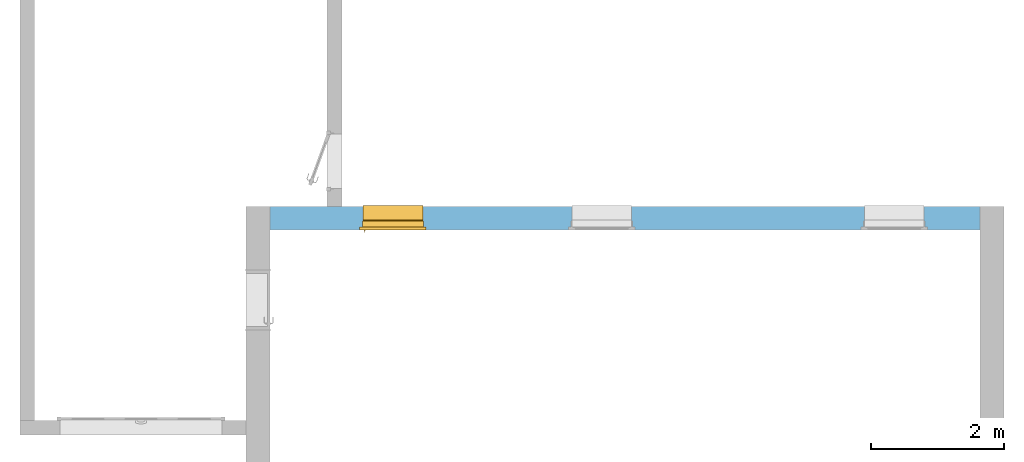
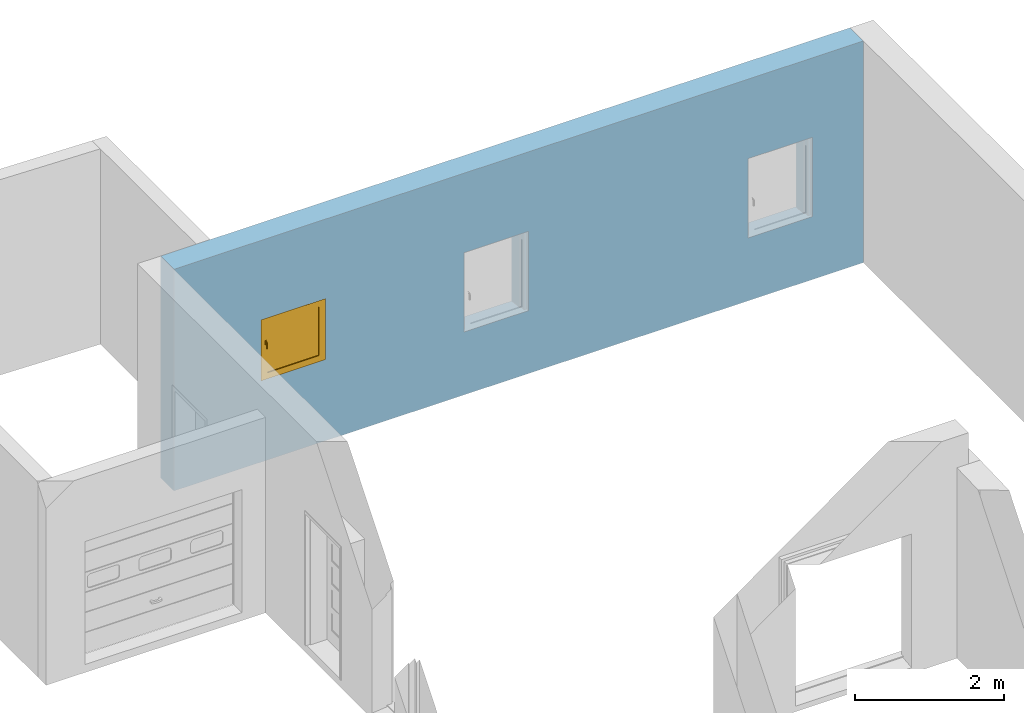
"""IFC2X3 building model written with IfcOpenShell, lengths in centimetres."""

from ifc_helpers import new_model, entity, si_unit, converted_unit, derived_unit, direction, frame, frame_2d, origin, place, context, subcontext, project, spatial, rectangle, extrude, faceted_brep, source, transform, mapped, material, material_list, layer, layer_set, layer_usage, type_object, type_shapes, element, fill, save


model = new_model("IFC2X3")

# Units and contexts
model_context = context("Model", 3, precision=0.001, world=origin(), true_north=direction((6.123031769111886e-17, 1.0)))
body_context = subcontext(model_context, "Body", "Model", "MODEL_VIEW")
ifc_project = project(units=[si_unit("LENGTHUNIT", "METRE", prefix="CENTI"), si_unit("AREAUNIT", "SQUARE_METRE"), si_unit("VOLUMEUNIT", "CUBIC_METRE"), converted_unit("PLANEANGLEUNIT", "DEGREE", entity("IfcRatioMeasure", 0.017453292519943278), si_unit("PLANEANGLEUNIT", "RADIAN"), dimensions=[0, 0, 0, 0, 0, 0, 0]), si_unit("MASSUNIT", "GRAM", prefix="KILO"), derived_unit("MASSDENSITYUNIT", [(si_unit("MASSUNIT", "GRAM", prefix="KILO"), 1), (si_unit("LENGTHUNIT", "METRE"), -3)]), derived_unit("MOMENTOFINERTIAUNIT", [(si_unit("LENGTHUNIT", "METRE"), 4)]), si_unit("TIMEUNIT", "SECOND"), si_unit("FREQUENCYUNIT", "HERTZ"), si_unit("THERMODYNAMICTEMPERATUREUNIT", "DEGREE_CELSIUS"), derived_unit("THERMALTRANSMITTANCEUNIT", [(si_unit("MASSUNIT", "GRAM", prefix="KILO"), 1), (si_unit("THERMODYNAMICTEMPERATUREUNIT", "KELVIN"), -1), (si_unit("TIMEUNIT", "SECOND"), -3)]), derived_unit("THERMALCONDUCTANCEUNIT", [(si_unit("MASSUNIT", "GRAM", prefix="KILO"), 1), (si_unit("LENGTHUNIT", "METRE"), 1), (si_unit("THERMODYNAMICTEMPERATUREUNIT", "KELVIN"), -1), (si_unit("TIMEUNIT", "SECOND"), -3)]), derived_unit("VOLUMETRICFLOWRATEUNIT", [(si_unit("LENGTHUNIT", "METRE"), 3), (si_unit("TIMEUNIT", "SECOND"), -1)]), derived_unit("MASSFLOWRATEUNIT", [(si_unit("MASSUNIT", "GRAM", prefix="KILO"), 1), (si_unit("TIMEUNIT", "SECOND"), -1)]), derived_unit("ROTATIONALFREQUENCYUNIT", [(si_unit("TIMEUNIT", "SECOND"), -1)]), si_unit("ELECTRICCURRENTUNIT", "AMPERE"), si_unit("ELECTRICVOLTAGEUNIT", "VOLT"), si_unit("POWERUNIT", "WATT"), si_unit("FORCEUNIT", "NEWTON", prefix="KILO"), si_unit("ILLUMINANCEUNIT", "LUX"), si_unit("LUMINOUSFLUXUNIT", "LUMEN"), si_unit("LUMINOUSINTENSITYUNIT", "CANDELA"), derived_unit("USERDEFINED", [(si_unit("MASSUNIT", "GRAM", prefix="KILO"), -1), (si_unit("LENGTHUNIT", "METRE"), -2), (si_unit("TIMEUNIT", "SECOND"), 3), (si_unit("LUMINOUSFLUXUNIT", "LUMEN"), 1)]), derived_unit("USERDEFINED", [(si_unit("MASSUNIT", "GRAM", prefix="KILO"), 1), (si_unit("LENGTHUNIT", "METRE"), 3), (si_unit("TIMEUNIT", "SECOND"), -3), (si_unit("ELECTRICCURRENTUNIT", "AMPERE"), -2)]), derived_unit("USERDEFINED", [(si_unit("LENGTHUNIT", "METRE"), 2), (si_unit("TIMEUNIT", "SECOND"), -2)]), derived_unit("SOUNDPOWERUNIT", [(si_unit("MASSUNIT", "GRAM", prefix="KILO"), 1), (si_unit("LENGTHUNIT", "METRE"), 2), (si_unit("TIMEUNIT", "SECOND"), -3)]), derived_unit("SOUNDPRESSUREUNIT", [(si_unit("MASSUNIT", "GRAM", prefix="KILO"), 1), (si_unit("LENGTHUNIT", "METRE"), -1), (si_unit("TIMEUNIT", "SECOND"), -2)]), derived_unit("LINEARVELOCITYUNIT", [(si_unit("LENGTHUNIT", "METRE"), 1), (si_unit("TIMEUNIT", "SECOND"), -1)]), si_unit("PRESSUREUNIT", "PASCAL"), derived_unit("USERDEFINED", [(si_unit("LENGTHUNIT", "METRE"), -2), (si_unit("MASSUNIT", "GRAM", prefix="KILO"), 1), (si_unit("TIMEUNIT", "SECOND"), -2)]), derived_unit("LINEARFORCEUNIT", [(si_unit("MASSUNIT", "GRAM", prefix="KILO"), 1), (si_unit("LENGTHUNIT", "METRE"), 1), (si_unit("TIMEUNIT", "SECOND"), -2), (si_unit("LENGTHUNIT", "METRE"), -1)]), derived_unit("PLANARFORCEUNIT", [(si_unit("MASSUNIT", "GRAM", prefix="KILO"), 1), (si_unit("LENGTHUNIT", "METRE"), 1), (si_unit("TIMEUNIT", "SECOND"), -2), (si_unit("LENGTHUNIT", "METRE"), -2)]), derived_unit("SPECIFICHEATCAPACITYUNIT", [(si_unit("LENGTHUNIT", "METRE"), 2), (si_unit("TIMEUNIT", "SECOND"), -2), (si_unit("THERMODYNAMICTEMPERATUREUNIT", "KELVIN"), -1)]), derived_unit("VAPORPERMEABILITYUNIT", [(si_unit("TIMEUNIT", "SECOND"), 1), (si_unit("LENGTHUNIT", "METRE"), -1)]), derived_unit("DYNAMICVISCOSITYUNIT", [(si_unit("MASSUNIT", "GRAM", prefix="KILO"), 1), (si_unit("LENGTHUNIT", "METRE"), -1), (si_unit("TIMEUNIT", "SECOND"), -1)]), derived_unit("THERMALEXPANSIONCOEFFICIENTUNIT", [(si_unit("THERMODYNAMICTEMPERATUREUNIT", "KELVIN"), -1)])], contexts=[model_context])

# Site, building, storey
site_placement = place(None, origin())
site = spatial("IfcSite", under=ifc_project, at=site_placement, Name="Default", CompositionType="ELEMENT")
building_placement = place(site_placement, origin())
building = spatial("IfcBuilding", under=site, at=building_placement, CompositionType="ELEMENT")
storey_1_placement = place(building_placement, frame((0.0, 0.0, -13.0)))
storey_1 = spatial("IfcBuildingStorey", under=building, at=storey_1_placement, Name="0_-0.13", CompositionType="ELEMENT", Elevation=-13.000000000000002)

# Wall, openings
ifc_material_1 = material(Name="Maçonnerie - Enduit")
ifc_layer_1 = layer(ifc_material_1, 2.0)
ifc_material_2 = material(Name="Maçonnerie - Béton")
ifc_layer_2 = layer(ifc_material_2, 20.0)
ifc_material_3 = material(Name="Mur par défaut")
ifc_layer_3 = layer(ifc_material_3, 14.0)
ifc_layer_set = layer_set([ifc_layer_1, ifc_layer_2, ifc_layer_3], Name="Mur de base:Mur extérieur 36cm")
ifc_layer_usage = layer_usage(ifc_layer_set, "AXIS2", "POSITIVE", -18.0)
wall_type = type_object("IfcWallType", Name="Mur de base:Mur extérieur 36cm", PredefinedType="STANDARD", material=ifc_layer_set)
wall_placement = place(storey_1_placement, frame((381.93155623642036, 360.64664587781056, 0.0), z_axis=(0.0, 0.0, 1.0), x_axis=(-1.0, 0.0, 0.0)))
wall = element("IfcWallStandardCase", 1, at=wall_placement, inside=storey_1, type_object=wall_type, material=ifc_layer_usage, Name="Mur de base:Mur extérieur 36cm", ObjectType="Mur de base:Mur extérieur 36cm", context=body_context, shape_type="SweptSolid", body=[
    extrude(rectangle(XDim=1068.0000000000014, YDim=36.00000000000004, at=frame_2d((534.0000000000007, 5.329070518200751e-15), x_axis=(-1.0, 0.0))), origin(), (0.0, 0.0, 1.0), 363.0000000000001),
])
opening_1_placement = place(wall_placement, origin())
element("IfcOpeningElement", 2, at=opening_1_placement, cuts=wall, Name="Mur de base:Mur extérieur 36cm", ObjectType="Opening", context=body_context, shape_type="SweptSolid", body=[
    extrude(rectangle(XDim=249.9999999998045, YDim=6.999999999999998, at=frame_2d((-3.3306690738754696e-15, 0.0), x_axis=(0.0, 1.0))), frame((331.50000000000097, 18.0, 138.0), z_axis=(0.0, 1.0, 0.0), x_axis=(-1.0, 0.0, 0.0)), (0.0, 0.0, 1.0), 146.0),
])
opening_2_placement = place(wall_placement, frame((179.0, 50.0, 95.61416282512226), z_axis=(0.0, 0.0, 1.0), x_axis=(-1.0, 0.0, 0.0)))
element("IfcOpeningElement", 3, at=opening_2_placement, cuts=wall, Name="Mur de base:Mur extérieur 36cm", ObjectType="Opening", context=body_context, shape_type="Brep", body=[
    faceted_brep([(5.0, 44.0, 7.385837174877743), (5.0, 46.0, 7.385837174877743), (5.0, 46.0, 132.38583717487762), (5.0, 100.0, 132.38583717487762), (5.0, 100.0, 0.0), (5.0, 44.0, 5.885837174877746), (95.0, 0.0, 7.385837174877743), (95.0, 32.0, 7.385837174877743), (95.0, 32.0, 132.38583717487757), (95.0, 0.0, 132.38583717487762), (5.0, 0.0, 7.385837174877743), (5.0, 32.0, 7.385837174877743), (0.0, 32.0, 7.385837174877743), (0.0, 37.0, 7.385837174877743), (4.0, 37.0, 7.385837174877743), (4.0, 46.0, 7.385837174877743), (95.0, 44.0, 7.385837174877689), (95.0, 46.0, 7.385837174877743), (96.0, 46.0, 7.385837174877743), (96.0, 37.0, 7.385837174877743), (100.0, 37.0, 7.385837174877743), (100.0, 32.0, 7.385837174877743), (5.0, 0.0, 132.38583717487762), (95.0, 46.0, 132.38583717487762), (95.0, 100.0, 132.38583717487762), (95.0, 100.0, 0.0), (95.0, 44.0, 5.885837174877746), (0.0, 32.0, 137.3858371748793), (0.0, 37.0, 137.3858371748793), (100.0, 37.0, 137.3858371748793), (96.0, 37.0, 133.38583717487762), (4.0, 37.0, 133.38583717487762), (4.0, 46.0, 133.38583717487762), (96.0, 46.0, 133.38583717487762), (5.0, 32.0, 132.38583717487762), (100.0, 32.0, 137.3858371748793)], [[[0, 1, 2, 3, 4, 5]], [[6, 7, 8, 9]], [[10, 11, 12, 13, 14, 15, 1, 0, 16, 17, 18, 19, 20, 21, 7, 6]], [[10, 6, 9, 22]], [[3, 2, 23, 24]], [[3, 24, 25, 4]], [[4, 25, 26, 5]], [[5, 26, 16, 0]], [[12, 27, 28, 13]], [[13, 28, 29, 20, 19, 30, 31, 14]], [[14, 31, 32, 15]], [[15, 32, 33, 18, 17, 23, 2, 1]], [[11, 34, 8, 7, 21, 35, 27, 12]], [[27, 35, 29, 28]], [[30, 33, 32, 31]], [[29, 35, 21, 20]], [[19, 18, 33, 30]], [[9, 8, 34, 22]], [[24, 23, 17, 16, 26, 25]], [[22, 34, 11, 10]]]),
])
opening_3_placement = place(wall_placement, frame((619.0, 50.0, 95.61416282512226), z_axis=(0.0, 0.0, 1.0), x_axis=(-1.0, 0.0, 0.0)))
element("IfcOpeningElement", 4, at=opening_3_placement, cuts=wall, Name="Mur de base:Mur extérieur 36cm", ObjectType="Opening", context=body_context, shape_type="Brep", body=[
    faceted_brep([(5.0, 44.0, 7.385837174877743), (5.0, 46.0, 7.385837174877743), (5.0, 46.0, 132.38583717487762), (5.0, 100.0, 132.38583717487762), (5.0, 100.0, 0.0), (5.0, 44.0, 5.885837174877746), (95.0, 0.0, 7.385837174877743), (95.0, 32.0, 7.385837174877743), (95.0, 32.0, 132.38583717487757), (95.0, 0.0, 132.38583717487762), (5.0, 0.0, 7.385837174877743), (5.0, 32.0, 7.385837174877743), (0.0, 32.0, 7.385837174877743), (0.0, 37.0, 7.385837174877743), (4.0, 37.0, 7.385837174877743), (4.0, 46.0, 7.385837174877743), (95.0, 44.0, 7.385837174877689), (95.0, 46.0, 7.385837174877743), (96.0, 46.0, 7.385837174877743), (96.0, 37.0, 7.385837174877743), (100.0, 37.0, 7.385837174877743), (100.0, 32.0, 7.385837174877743), (5.0, 0.0, 132.38583717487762), (95.0, 46.0, 132.38583717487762), (95.0, 100.0, 132.38583717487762), (95.0, 100.0, 0.0), (95.0, 44.0, 5.885837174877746), (0.0, 32.0, 137.3858371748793), (0.0, 37.0, 137.3858371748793), (100.0, 37.0, 137.3858371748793), (96.0, 37.0, 133.38583717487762), (4.0, 37.0, 133.38583717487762), (4.0, 46.0, 133.38583717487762), (96.0, 46.0, 133.38583717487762), (5.0, 32.0, 132.38583717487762), (100.0, 32.0, 137.3858371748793)], [[[0, 1, 2, 3, 4, 5]], [[6, 7, 8, 9]], [[10, 11, 12, 13, 14, 15, 1, 0, 16, 17, 18, 19, 20, 21, 7, 6]], [[10, 6, 9, 22]], [[3, 2, 23, 24]], [[3, 24, 25, 4]], [[4, 25, 26, 5]], [[5, 26, 16, 0]], [[12, 27, 28, 13]], [[13, 28, 29, 20, 19, 30, 31, 14]], [[14, 31, 32, 15]], [[15, 32, 33, 18, 17, 23, 2, 1]], [[11, 34, 8, 7, 21, 35, 27, 12]], [[27, 35, 29, 28]], [[30, 33, 32, 31]], [[29, 35, 21, 20]], [[19, 18, 33, 30]], [[9, 8, 34, 22]], [[24, 23, 17, 16, 26, 25]], [[22, 34, 11, 10]]]),
])
opening_4_placement = place(wall_placement, frame((933.0, 50.0, 125.61416282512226), z_axis=(0.0, 0.0, 1.0), x_axis=(-1.0, 0.0, 0.0)))
opening_4 = element("IfcOpeningElement", 5, at=opening_4_placement, cuts=wall, Name="Mur de base:Mur extérieur 36cm", ObjectType="Opening", context=body_context, shape_type="Brep", body=[
    faceted_brep([(5.0, 44.0, 7.385837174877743), (5.0, 46.0, 7.385837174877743), (5.0, 46.0, 102.38583717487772), (5.0, 100.0, 102.38583717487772), (5.0, 100.0, 0.0), (5.0, 44.0, 5.885837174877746), (95.0, 0.0, 7.385837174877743), (95.0, 32.0, 7.385837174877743), (95.0, 32.0, 102.38583717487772), (95.0, 0.0, 102.38583717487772), (5.0, 0.0, 7.385837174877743), (5.0, 32.0, 7.385837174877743), (0.0, 32.0, 7.385837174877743), (0.0, 37.0, 7.385837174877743), (4.0, 37.0, 7.385837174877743), (4.0, 46.0, 7.385837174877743), (95.0, 44.0, 7.385837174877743), (95.0, 46.0, 7.385837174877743), (96.0, 46.0, 7.385837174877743), (96.0, 37.0, 7.385837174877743), (100.0, 37.0, 7.385837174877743), (100.0, 32.0, 7.385837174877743), (5.0, 0.0, 102.38583717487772), (95.0, 46.0, 102.38583717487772), (95.0, 100.0, 102.38583717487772), (95.0, 100.0, 0.0), (95.0, 44.0, 5.885837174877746), (0.0, 32.0, 107.3858371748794), (0.0, 37.0, 107.3858371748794), (100.0, 37.0, 107.3858371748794), (96.0, 37.0, 103.38583717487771), (4.0, 37.0, 103.38583717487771), (4.0, 46.0, 103.38583717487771), (96.0, 46.0, 103.38583717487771), (5.0, 32.0, 102.38583717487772), (100.0, 32.0, 107.3858371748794)], [[[0, 1, 2, 3, 4, 5]], [[6, 7, 8, 9]], [[10, 11, 12, 13, 14, 15, 1, 0, 16, 17, 18, 19, 20, 21, 7, 6]], [[10, 6, 9, 22]], [[3, 2, 23, 24]], [[3, 24, 25, 4]], [[4, 25, 26, 5]], [[5, 26, 16, 0]], [[12, 27, 28, 13]], [[13, 28, 29, 20, 19, 30, 31, 14]], [[14, 31, 32, 15]], [[15, 32, 33, 18, 17, 23, 2, 1]], [[11, 34, 8, 7, 21, 35, 27, 12]], [[27, 35, 29, 28]], [[30, 33, 32, 31]], [[29, 35, 21, 20]], [[19, 18, 33, 30]], [[9, 8, 34, 22]], [[24, 23, 17, 16, 26, 25]], [[22, 34, 11, 10]]]),
])

# Storey
storey_2_placement = place(building_placement, origin())
storey_2 = spatial("IfcBuildingStorey", under=building, at=storey_2_placement, Name="1_Rez-de-chaussée", CompositionType="ELEMENT", Elevation=0.0)

# Window
ifc_material_4 = material(Name="Fenêtre - Poignée")
ifc_material_5 = material(Name="Fenêtre - Appui")
ifc_material_6 = material(Name="Fenêtre - Vitrage")
ifc_material_7 = material(Name="Fenêtre - Cadre")
ifc_material_list = material_list([ifc_material_4, ifc_material_5, ifc_material_6, ifc_material_7])
window_style = type_object("IfcWindowStyle", Name="1 Vantail - Droit:0.90 m x 0.95 m", ConstructionType="NOTDEFINED", OperationType="NOTDEFINED", ParameterTakesPrecedence=False, Sizeable=False, material=ifc_material_list)
shared_shape = source(origin(), body_context, "Body", "Brep", [
    faceted_brep([(8.064600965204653, 31.39999999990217, 69.58923009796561), (8.203392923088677, 31.39999999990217, 69.45043814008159), (8.203392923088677, 31.39999999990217, 68.31906729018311), (8.066769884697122, 31.39999999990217, 68.18244425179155), (6.933230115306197, 31.39999999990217, 68.18244425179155), (6.796607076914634, 31.39999999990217, 68.31906729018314), (6.796607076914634, 31.39999999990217, 69.45043814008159), (6.935399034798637, 31.39999999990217, 69.58923009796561), (8.064600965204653, 30.10864511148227, 69.58923009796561), (8.203392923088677, 30.16613462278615, 69.45043814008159), (8.203392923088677, 28.83539903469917, 68.11970255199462), (8.203392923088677, 28.835399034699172, 59.3858371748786), (8.203392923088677, 29.966769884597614, 59.3858371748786), (8.203392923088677, 29.966769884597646, 67.65107340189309), (8.203392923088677, 30.634763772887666, 68.31906729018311), (8.066769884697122, 30.69135488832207, 68.18244425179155), (6.933230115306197, 30.69135488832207, 68.18244425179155), (6.796607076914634, 30.634763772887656, 68.31906729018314), (6.796607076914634, 29.9667698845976, 67.6510734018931), (6.796607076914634, 29.9667698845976, 59.3858371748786), (6.796607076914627, 28.835399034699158, 59.3858371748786), (6.796607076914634, 28.835399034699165, 68.11970255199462), (6.796607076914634, 30.16613462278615, 69.45043814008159), (6.935399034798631, 30.10864511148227, 69.58923009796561), (8.064600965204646, 28.696607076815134, 68.17719206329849), (8.066769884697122, 30.103392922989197, 67.59448228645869), (6.933230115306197, 30.103392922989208, 67.59448228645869), (6.935399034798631, 28.696607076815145, 68.17719206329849), (8.064600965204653, 28.696607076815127, 59.3858371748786), (6.935399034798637, 28.696607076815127, 59.3858371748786), (6.933230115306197, 30.103392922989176, 59.3858371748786), (8.066769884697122, 30.103392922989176, 59.3858371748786)], [[[0, 1, 2, 3, 4, 5, 6, 7]], [[1, 0, 8, 9]], [[2, 1, 9, 10, 11, 12, 13, 14]], [[3, 2, 14, 15]], [[4, 3, 15, 16]], [[5, 4, 16, 17]], [[6, 5, 17, 18, 19, 20, 21, 22]], [[7, 6, 22, 23]], [[0, 7, 23, 8]], [[9, 8, 24, 10]], [[15, 14, 13, 25]], [[16, 15, 25, 26]], [[17, 16, 26, 18]], [[23, 22, 21, 27]], [[8, 23, 27, 24]], [[28, 29, 20, 19, 30, 31, 12, 11]], [[10, 24, 28, 11]], [[25, 13, 12, 31]], [[26, 25, 31, 30]], [[18, 26, 30, 19]], [[27, 21, 20, 29]], [[24, 27, 29, 28]]]),
    faceted_brep([(8.200000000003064, 31.400000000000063, 71.38583717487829), (6.80000000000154, 31.400000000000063, 71.38583717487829), (6.300000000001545, 31.400000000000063, 70.8858371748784), (6.300000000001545, 31.400000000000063, 63.88583717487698), (6.8000000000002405, 31.400000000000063, 63.38583717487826), (8.200000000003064, 31.400000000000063, 63.38583717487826), (8.70000000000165, 31.400000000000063, 63.885837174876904), (8.70000000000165, 31.400000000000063, 70.8858371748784), (8.200000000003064, 32.0, 71.38583717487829), (8.70000000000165, 32.0, 70.8858371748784), (8.70000000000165, 32.0, 63.885837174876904), (8.200000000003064, 32.0, 63.38583717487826), (6.8000000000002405, 32.0, 63.38583717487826), (6.300000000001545, 32.0, 63.88583717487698), (6.300000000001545, 32.0, 70.8858371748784), (6.80000000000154, 32.0, 71.38583717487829)], [[[0, 1, 2, 3, 4, 5, 6, 7]], [[8, 9, 10, 11, 12, 13, 14, 15]], [[1, 0, 8, 15]], [[2, 1, 15, 14]], [[3, 2, 14, 13]], [[4, 3, 13, 12]], [[5, 4, 12, 11]], [[6, 5, 11, 10]], [[7, 6, 10, 9]], [[0, 7, 9, 8]]]),
    faceted_brep([(95.0, 69.50000000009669, 3.731200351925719), (95.0, 44.5000000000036, 6.3588062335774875), (95.0, 44.5000000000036, 7.38583717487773), (95.0, 44.0, 7.38583717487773), (95.0, 44.0, 5.885837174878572), (95.0, 69.0, 3.2582312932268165), (95.0, 69.0, 2.2281808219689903), (95.0, 69.5000000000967, 2.1756287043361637), (5.0, 69.5000000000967, 3.731200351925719), (5.0, 69.5000000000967, 2.1756287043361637), (5.0, 69.0, 2.2281808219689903), (5.0, 69.0, 3.2582312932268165), (5.0, 44.0, 5.885837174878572), (5.0, 44.0, 7.38583717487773), (5.0, 44.50000000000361, 7.38583717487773), (5.0, 44.50000000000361, 6.3588062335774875)], [[[0, 1, 2, 3, 4, 5, 6, 7]], [[8, 9, 10, 11, 12, 13, 14, 15]], [[1, 0, 8, 15]], [[2, 1, 15, 14]], [[3, 2, 14, 13]], [[4, 3, 13, 12]], [[5, 4, 12, 11]], [[6, 5, 11, 10]], [[7, 6, 10, 9]], [[0, 7, 9, 8]]]),
    faceted_brep([(5.0, 69.50000000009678, 3.8737928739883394), (5.0, 69.50000000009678, 3.731200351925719), (5.0, 44.50000000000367, 6.3588062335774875), (5.0, 44.50000000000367, 6.861560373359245), (5.0, 69.14181138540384, 4.271601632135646), (5.0, 69.39725793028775, 4.14144511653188), (5.500000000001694, 44.50000000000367, 6.861560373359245), (5.500000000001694, 44.50000000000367, 6.3588062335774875), (5.500000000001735, 69.50000000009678, 3.731200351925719), (5.500000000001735, 69.50000000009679, 3.8737928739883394), (5.500000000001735, 69.39725793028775, 4.14144511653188), (5.500000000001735, 69.14181138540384, 4.271601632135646)], [[[0, 1, 2, 3, 4, 5]], [[6, 7, 8, 9, 10, 11]], [[2, 1, 8, 7]], [[3, 2, 7, 6]], [[4, 3, 6, 11]], [[4, 11, 10, 5]], [[10, 9, 0, 5]], [[1, 0, 9, 8]]]),
    faceted_brep([(94.50000000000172, 69.50000000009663, 3.8737928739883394), (94.50000000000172, 69.50000000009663, 3.731200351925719), (94.50000000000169, 44.50000000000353, 6.3588062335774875), (94.50000000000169, 44.50000000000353, 6.861560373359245), (94.50000000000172, 69.14181138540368, 4.271601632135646), (94.50000000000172, 69.39725793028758, 4.14144511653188), (95.0, 44.50000000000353, 6.861560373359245), (95.0, 44.50000000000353, 6.3588062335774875), (95.0, 69.50000000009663, 3.731200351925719), (95.0, 69.50000000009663, 3.8737928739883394), (95.0, 69.39725793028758, 4.14144511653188), (95.0, 69.14181138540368, 4.271601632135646)], [[[0, 1, 2, 3, 4, 5]], [[6, 7, 8, 9, 10, 11]], [[2, 1, 8, 7]], [[3, 2, 7, 6]], [[4, 3, 6, 11]], [[4, 11, 10, 5]], [[10, 9, 0, 5]], [[1, 0, 9, 8]]]),
    faceted_brep([(10.0, 34.59999999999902, 17.385837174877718), (10.0, 34.59999999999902, 97.38583717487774), (90.0, 34.599999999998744, 97.38583717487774), (90.0, 34.599999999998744, 17.385837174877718), (10.0, 33.39999999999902, 17.385837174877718), (10.0, 33.39999999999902, 97.38583717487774), (90.0, 33.39999999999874, 97.38583717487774), (90.0, 33.39999999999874, 17.385837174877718)], [[[0, 1, 2, 3]], [[1, 0, 4, 5]], [[3, 2, 6, 7]], [[0, 3, 7, 4]], [[4, 7, 6, 5]], [[2, 1, 5, 6]]]),
    faceted_brep([(10.0, 36.0, 97.38583717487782), (10.0, 32.0, 97.38583717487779), (10.0, 32.0, 17.385837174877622), (10.0, 36.0, 17.385837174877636), (90.0, 32.0, 17.385837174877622), (90.0, 36.0, 17.385837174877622), (90.0, 32.0, 97.38583717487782), (95.0, 32.0, 12.385837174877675), (95.0, 32.0, 102.38583717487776), (5.0, 32.0, 102.38583717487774), (5.0, 32.0, 12.385837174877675), (90.0, 36.0, 97.38583717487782), (5.0, 36.0, 12.38583717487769), (5.0, 36.0, 102.38583717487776), (95.0, 36.0, 102.38583717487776), (95.0, 36.0, 12.385837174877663)], [[[0, 1, 2, 3]], [[3, 2, 4, 5]], [[2, 1, 6, 4], [7, 8, 9, 10]], [[5, 4, 6, 11]], [[5, 11, 0, 3], [12, 13, 14, 15]], [[9, 13, 12, 10]], [[10, 12, 15, 7]], [[7, 15, 14, 8]], [[11, 6, 1, 0]], [[8, 14, 13, 9]]], outer=[[True], [True], [False, True], [True], [False, True], [True], [True], [True], [True], [True]]),
    faceted_brep([(0.0, 32.0, 7.38583717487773), (0.0, 37.0, 7.38583717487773), (5.0, 37.0, 7.38583717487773), (5.0, 46.0, 7.38583717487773), (95.0, 46.0, 7.385837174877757), (95.0, 37.0, 7.38583717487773), (100.0, 37.0, 7.38583717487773), (100.0, 32.0, 7.38583717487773), (0.0, 32.0, 107.38583717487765), (0.0, 37.0, 107.38583717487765), (100.0, 37.0, 107.38583717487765), (95.0, 37.0, 11.323451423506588), (5.0, 37.0, 11.323451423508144), (6.500000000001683, 37.0, 100.8858371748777), (6.500000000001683, 37.0, 13.885837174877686), (93.50000000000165, 37.0, 13.885837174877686), (93.50000000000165, 37.0, 100.8858371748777), (5.0, 47.0, 8.643959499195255), (5.0, 47.0, 6.885837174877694), (5.0, 46.0, 6.885837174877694), (95.0, 46.0, 6.885837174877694), (95.0, 47.0, 6.885837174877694), (95.0, 47.0, 8.643959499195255), (100.0, 32.0, 107.38583717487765), (95.0, 32.0, 102.38583717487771), (95.0, 32.0, 12.38583717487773), (5.0, 32.0, 12.38583717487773), (5.0, 32.0, 102.38583717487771), (6.500000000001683, 36.0, 100.8858371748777), (6.500000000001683, 36.0, 13.885837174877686), (93.50000000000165, 36.0, 13.885837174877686), (93.50000000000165, 36.0, 100.8858371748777), (95.0, 36.0, 102.38583717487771), (5.0, 36.0, 102.38583717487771), (5.0, 36.0, 12.38583717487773), (95.0, 36.0, 12.38583717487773)], [[[0, 1, 2, 3, 4, 5, 6, 7]], [[1, 0, 8, 9]], [[1, 9, 10, 6, 5, 11, 12, 2], [13, 14, 15, 16]], [[12, 17, 18, 19, 3, 2]], [[3, 19, 20, 4]], [[4, 20, 21, 22, 11, 5]], [[6, 10, 23, 7]], [[0, 7, 23, 8], [24, 25, 26, 27]], [[13, 28, 29, 14]], [[29, 30, 15, 14]], [[31, 16, 15, 30]], [[17, 12, 11, 22]], [[32, 33, 34, 35], [28, 31, 30, 29]], [[34, 33, 27, 26]], [[26, 25, 35, 34]], [[24, 32, 35, 25]], [[18, 17, 22, 21]], [[19, 18, 21, 20]], [[13, 16, 31, 28]], [[33, 32, 24, 27]], [[10, 9, 8, 23]]]),
    faceted_brep([(5.0, 46.0, 7.38583717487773), (5.0, 37.0, 7.38583717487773), (4.0, 37.0, 7.38583717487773), (4.0, 46.0, 7.38583717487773), (5.0, 46.0, 102.38583717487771), (5.0, 37.0, 102.38583717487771), (95.0, 37.0, 102.38583717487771), (95.0, 37.0, 7.38583717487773), (96.0, 37.0, 7.38583717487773), (96.0, 37.0, 103.3858371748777), (4.0, 37.0, 103.3858371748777), (4.0, 46.0, 103.3858371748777), (96.0, 46.0, 103.3858371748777), (96.0, 46.0, 7.38583717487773), (95.0, 46.0, 7.38583717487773), (95.0, 46.0, 102.38583717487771)], [[[0, 1, 2, 3]], [[1, 0, 4, 5]], [[2, 1, 5, 6, 7, 8, 9, 10]], [[3, 2, 10, 11]], [[0, 3, 11, 12, 13, 14, 15, 4]], [[6, 15, 14, 7]], [[14, 13, 8, 7]], [[12, 9, 8, 13]], [[5, 4, 15, 6]], [[11, 10, 9, 12]]]),
])
type_shapes(window_style, [shared_shape])
window_placement = place(opening_4_placement, origin())
window = element("IfcWindow", 6, at=window_placement, inside=storey_2, type_object=window_style, material=ifc_material_list, Name="1 Vantail - Droit:0.90 m x 0.95 m", ObjectType="1 Vantail - Droit:0.90 m x 0.95 m", OverallHeight=108.00000000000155, OverallWidth=100.00000000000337, context=body_context, shape_type="MappedRepresentation", body=[
    mapped(shared_shape, transform((0.0, 0.0, 0.0), scale=1.0)),
])

fill(opening_4, window)

save(model, "model.ifc")
